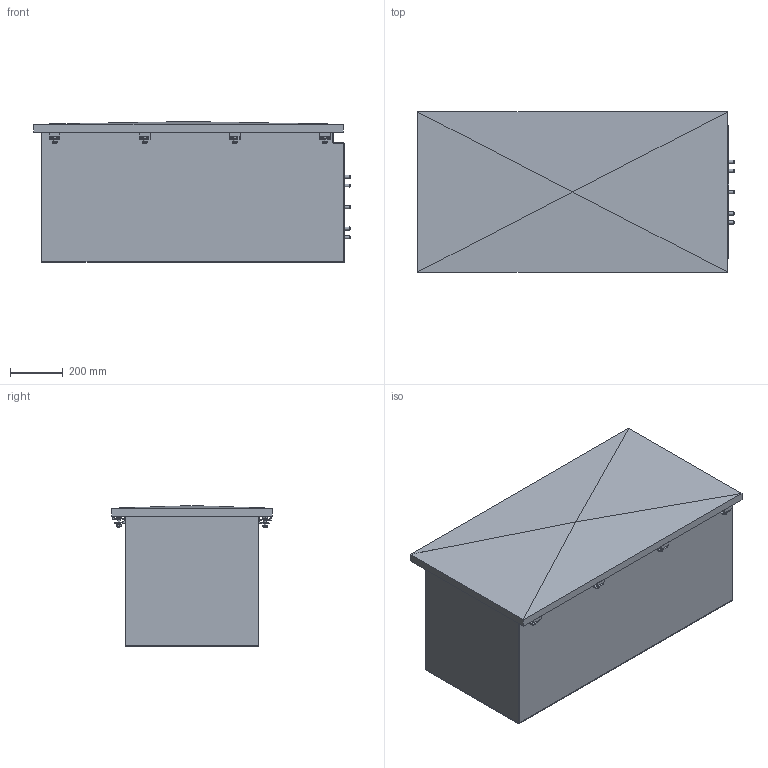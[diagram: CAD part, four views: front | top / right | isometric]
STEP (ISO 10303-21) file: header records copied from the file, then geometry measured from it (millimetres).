
FILE_DESCRIPTION(/* description */ (''),/* implementation_level */ '2;1');
FILE_NAME(/* name */ 'K:\MANDARIC\EN4-01K4-4R5R-FO.stp',/* time_stamp */ '2017-11-30T16:12:07+01:00',/* author */ ('milman01'),/* organization */ ('Hillmar Industries Ltd.'),/* preprocessor_version */ 'ST-DEVELOPER v16.1',/* originating_system */ 'Autodesk Inventor 2016',/* authorisation */ '');
FILE_SCHEMA (('AUTOMOTIVE_DESIGN { 1 0 10303 214 3 1 1 }'));
Length unit declared in the file: millimetre
Products named in the file (1): EN4-01K4-4R5R-FO
Bounding box: 1193.77 x 604 x 531.3 mm (x, y, z)
Volume: 28344647.9 mm3; surface area: 5979417.8 mm2
Topology: 1 solids, 1 shells, 616 faces, 1503 edges, 971 vertices
Faces by surface type: plane 365, cone 136, cylinder 115
Full cylindrical faces by diameter (mm): 9.188 x8, 10 x24, 11 x8, 11.053 x8, 12 x8, 15.4 x8, 17.2 x8, 80 x1, 118.3 x1, 254 x1
Entity records: 17466 total; most frequent: CARTESIAN_POINT 3472, ORIENTED_EDGE 2704, DIRECTION 2666, EDGE_CURVE 1348, AXIS2_PLACEMENT_3D 989, VERTEX_POINT 931, EDGE_LOOP 861, LINE 688
